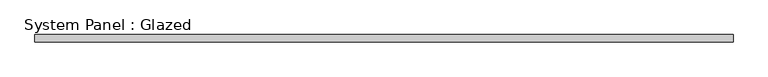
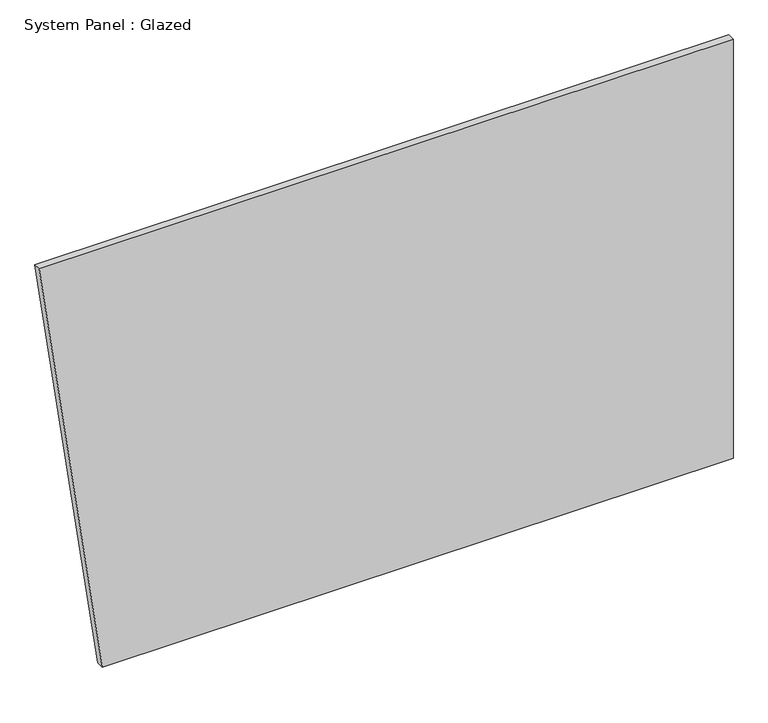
"""IFC4 building model written with IfcOpenShell, lengths in millimetres: plate geometry, System Panel : Glazed."""

from ifc_helpers import new_model, si_unit, frame, origin, place, context, project, spatial, polyline, outline, extrude, source, transform, mapped, element, save


def system_panel_glazed_a2d58803(model_context):
    return source(origin(), model_context, "Body", "SweptSolid", [
        extrude(outline(polyline([(0.0, -976.7040981), (0.0, 1193.7494532), (1524.0, 1193.7494532), (1524.0, -1193.7494532), (0.0, -976.7040981)])), frame((0.0, 19.05, 0.0), z_axis=(0.0, 1.0, 0.0), x_axis=(0.0, 0.0, 1.0)), (0.0, 0.0, 1.0), 25.4),
    ])


if __name__ == "__main__":
    model = new_model("IFC4")
    model_context = context("Model", 3, world=origin())
    ifc_project = project(units=[si_unit("LENGTHUNIT", "METRE", prefix="MILLI")], contexts=[model_context])
    site = spatial("IfcSite", under=ifc_project)
    building = spatial("IfcBuilding", under=site)
    placement = place(None, origin())
    system_panel_glazed_shape = system_panel_glazed_a2d58803(model_context)
    element("IfcPlate", 1, ObjectType="System Panel : Glazed", at=placement, inside=building, context=model_context, shape_type="MappedRepresentation", body=[
        mapped(system_panel_glazed_shape, transform((0.0, 0.0, 0.0), x_axis=(1.0, 0.0, 0.0), y_axis=(0.0, 1.0, 0.0), z_axis=(0.0, 0.0, 1.0))),
    ])
    save(model, "model.ifc")
